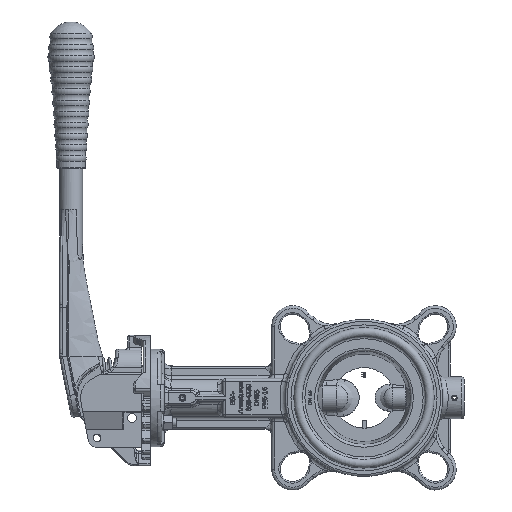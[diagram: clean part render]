
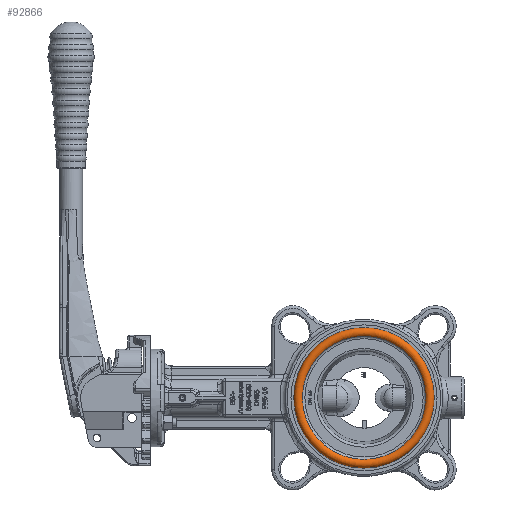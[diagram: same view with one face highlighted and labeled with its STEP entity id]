
A CAD part, left-side view. The second image highlights one B-rep face of the part: STEP entity #92866.
In plain terms, the highlighted toroidal (fillet/blend) face has major radius 47.25 mm and minor radius 3.25 mm.
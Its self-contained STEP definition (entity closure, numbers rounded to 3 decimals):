
#92835=CARTESIAN_POINT('',(-24.143,0.0,44.314));
#92836=VERTEX_POINT('',#92835);
#92837=CARTESIAN_POINT('',(-24.143,0.0,0.0));
#92838=DIRECTION('',(-1.0,0.0,0.0));
#92839=DIRECTION('',(0.0,0.0,1.0));
#92840=AXIS2_PLACEMENT_3D('',#92837,#92838,#92839);
#92841=CIRCLE('',#92840,44.314);
#92842=EDGE_CURVE('',#92836,#92836,#92841,.T.);
#92847=CARTESIAN_POINT('',(-22.75,0.0,0.0));
#92848=DIRECTION('',(-1.0,0.0,0.0));
#92849=DIRECTION('',(0.0,0.0,1.0));
#92850=AXIS2_PLACEMENT_3D('',#92847,#92848,#92849);
#92851=TOROIDAL_SURFACE('',#92850,47.25,3.25);
#92852=ORIENTED_EDGE('',*,*,#92842,.F.);
#92853=EDGE_LOOP('',(#92852));
#92854=FACE_OUTER_BOUND('',#92853,.T.);
#92855=CARTESIAN_POINT('',(-22.75,0.0,50.5));
#92856=VERTEX_POINT('',#92855);
#92857=CARTESIAN_POINT('',(-22.75,0.0,0.0));
#92858=DIRECTION('',(-1.0,0.0,0.0));
#92859=DIRECTION('',(0.0,0.0,1.0));
#92860=AXIS2_PLACEMENT_3D('',#92857,#92858,#92859);
#92861=CIRCLE('',#92860,50.5);
#92862=EDGE_CURVE('',#92856,#92856,#92861,.T.);
#92863=ORIENTED_EDGE('',*,*,#92862,.T.);
#92864=EDGE_LOOP('',(#92863));
#92865=FACE_BOUND('',#92864,.T.);
#92866=ADVANCED_FACE('',(#92854,#92865),#92851,.T.);
